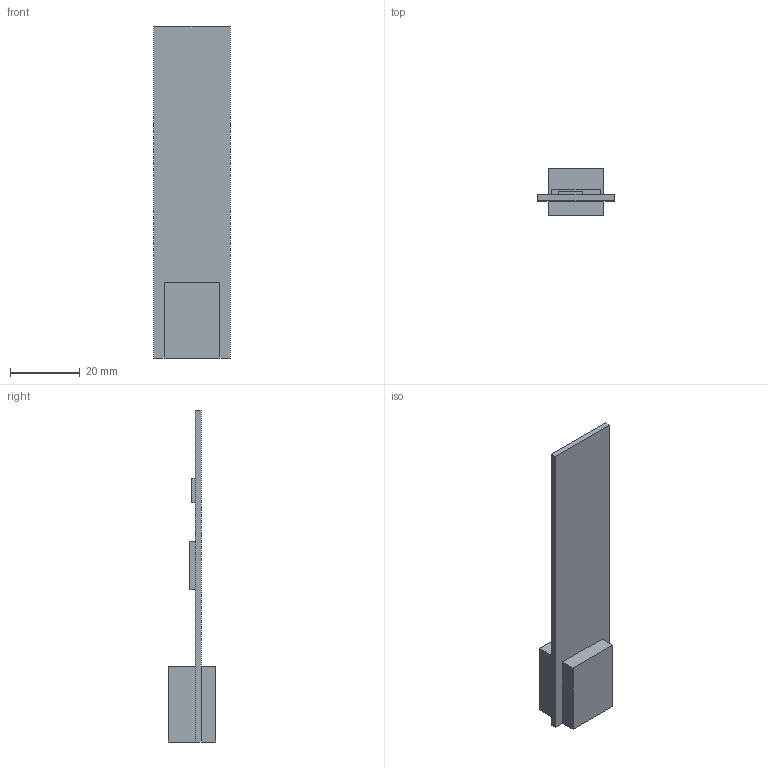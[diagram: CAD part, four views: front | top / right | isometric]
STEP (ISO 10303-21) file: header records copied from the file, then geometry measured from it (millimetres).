
FILE_DESCRIPTION(('Open CASCADE Model'),'2;1');
FILE_NAME('Open CASCADE Shape Model','2026-11-19T19:35:25',('Author'),( 'Open CASCADE'),'Open CASCADE STEP processor 8.0','build123d', 'Unknown');
FILE_SCHEMA(('AUTOMOTIVE_DESIGN { 1 0 10303 214 1 1 1 1 }'));
Length unit declared in the file: millimetre
Products named in the file (1): COMPOUND
Bounding box: 22 x 13.6 x 95 mm (x, y, z)
Volume: 7839.5 mm3; surface area: 5574.8 mm2
Topology: 1 solids, 1 shells, 24 faces, 60 edges, 40 vertices
Faces by surface type: plane 24
Entity records: 1482 total; most frequent: CARTESIAN_POINT 257, DIRECTION 218, LINE 168, VECTOR 168, ORIENTED_EDGE 120, PCURVE 120, DEFINITIONAL_REPRESENTATION 120, EDGE_CURVE 60
